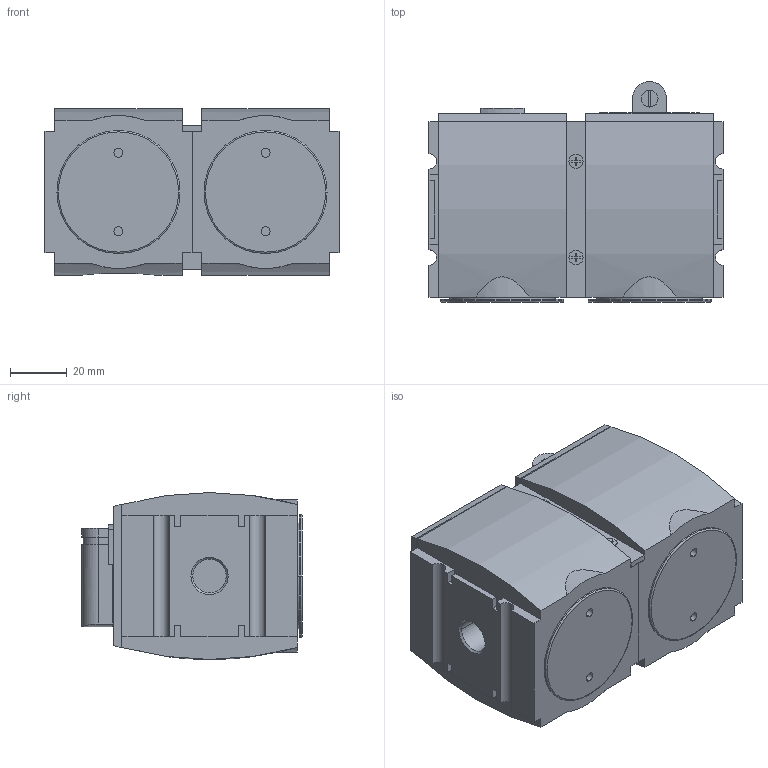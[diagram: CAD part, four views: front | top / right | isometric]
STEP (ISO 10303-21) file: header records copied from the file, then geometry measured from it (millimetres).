
FILE_DESCRIPTION((''),'2;1');
FILE_NAME('R412006277_ASM','2016-06-14T',('prr2cob'),(''),'PRO/ENGINEER BY PARAMETRIC TECHNOLOGY CORPORATION, 2012421','PRO/ENGINEER BY PARAMETRIC TECHNOLOGY CORPORATION, 2012421','');
FILE_SCHEMA(('CONFIG_CONTROL_DESIGN','SHAPE_APPEARANCE_LAYERS_GROUPS'));
Length unit declared in the file: millimetre
Products named in the file (4): R412006264; R412006371; R412006272; R412006277_ASM
Assembly tree (3 placements, depth 2):
  R412006277_ASM
    R412006264
    R412006371
    R412006272
Bounding box: 104 x 78 x 59 mm (x, y, z)
Volume: 360587.2 mm3; surface area: 54418.2 mm2
Topology: 3 solids, 3 shells, 307 faces, 778 edges, 510 vertices
Faces by surface type: plane 212, cylinder 77, cone 12, torus 6
Entity records: 9621 total; most frequent: CARTESIAN_POINT 1919, DIRECTION 1585, ORIENTED_EDGE 1556, EDGE_CURVE 778, VECTOR 585, LINE 585, VERTEX_POINT 510, AXIS2_PLACEMENT_3D 500
